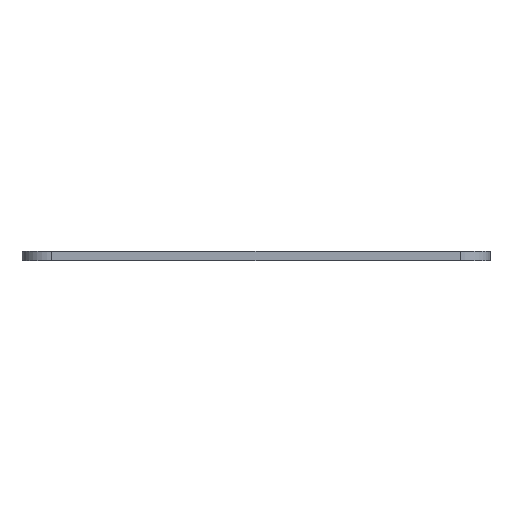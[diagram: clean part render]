
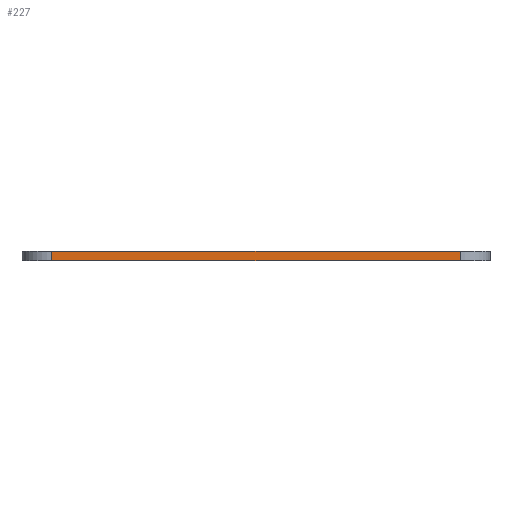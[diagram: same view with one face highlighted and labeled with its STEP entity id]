
A CAD part, front view. The second image highlights one B-rep face of the part: STEP entity #227.
In plain terms, the highlighted planar face has unit normal (0, -1, 0).
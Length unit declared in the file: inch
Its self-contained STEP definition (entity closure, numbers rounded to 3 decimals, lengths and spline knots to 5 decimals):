
#11 = EDGE_CURVE ( 'NONE', #39, #515, #521, .T. ) ;
#23 = AXIS2_PLACEMENT_3D ( 'NONE', #1021, #611, #141 ) ;
#39 = VERTEX_POINT ( 'NONE', #764 ) ;
#108 = CARTESIAN_POINT ( 'NONE',  ( 0., 0., 0.06 ) ) ;
#141 = DIRECTION ( 'NONE',  ( 0., 0., 1. ) ) ;
#152 = CARTESIAN_POINT ( 'NONE',  ( 0.19062, 0., 0.06 ) ) ;
#193 = FACE_OUTER_BOUND ( 'NONE', #951, .T. ) ;
#207 = CARTESIAN_POINT ( 'NONE',  ( 0.19062, 0., 0.06 ) ) ;
#211 = EDGE_CURVE ( 'NONE', #255, #948, #853, .T. ) ;
#216 = PLANE ( 'NONE',  #23 ) ;
#227 = ADVANCED_FACE ( 'NONE', ( #193 ), #216, .F. ) ;
#248 = ORIENTED_EDGE ( 'NONE', *, *, #11, .F. ) ;
#255 = VERTEX_POINT ( 'NONE', #701 ) ;
#290 = CARTESIAN_POINT ( 'NONE',  ( 2.8059, 0., 0.06 ) ) ;
#333 = DIRECTION ( 'NONE',  ( 1., 0., 0. ) ) ;
#376 = LINE ( 'NONE', #108, #977 ) ;
#414 = EDGE_CURVE ( 'NONE', #39, #948, #676, .T. ) ;
#434 = ORIENTED_EDGE ( 'NONE', *, *, #756, .F. ) ;
#459 = DIRECTION ( 'NONE',  ( 1., 0., 0. ) ) ;
#515 = VERTEX_POINT ( 'NONE', #152 ) ;
#521 = LINE ( 'NONE', #207, #959 ) ;
#524 = DIRECTION ( 'NONE',  ( 0., 0., 1. ) ) ;
#606 = DIRECTION ( 'NONE',  ( 0., 0., -1. ) ) ;
#611 = DIRECTION ( 'NONE',  ( 0., 1., 0. ) ) ;
#639 = VECTOR ( 'NONE', #606, 39.37008 ) ;
#651 = VECTOR ( 'NONE', #459, 39.37008 ) ;
#676 = LINE ( 'NONE', #855, #651 ) ;
#701 = CARTESIAN_POINT ( 'NONE',  ( 2.8059, 0., 0.06 ) ) ;
#745 = ORIENTED_EDGE ( 'NONE', *, *, #211, .F. ) ;
#756 = EDGE_CURVE ( 'NONE', #515, #255, #376, .T. ) ;
#764 = CARTESIAN_POINT ( 'NONE',  ( 0.19062, 0., 0. ) ) ;
#816 = ORIENTED_EDGE ( 'NONE', *, *, #414, .T. ) ;
#853 = LINE ( 'NONE', #290, #639 ) ;
#855 = CARTESIAN_POINT ( 'NONE',  ( 0., 0., 0. ) ) ;
#948 = VERTEX_POINT ( 'NONE', #1008 ) ;
#951 = EDGE_LOOP ( 'NONE', ( #745, #434, #248, #816 ) ) ;
#959 = VECTOR ( 'NONE', #524, 39.37008 ) ;
#977 = VECTOR ( 'NONE', #333, 39.37008 ) ;
#1008 = CARTESIAN_POINT ( 'NONE',  ( 2.8059, 0., 0. ) ) ;
#1021 = CARTESIAN_POINT ( 'NONE',  ( 0., 0., 0.06 ) ) ;
